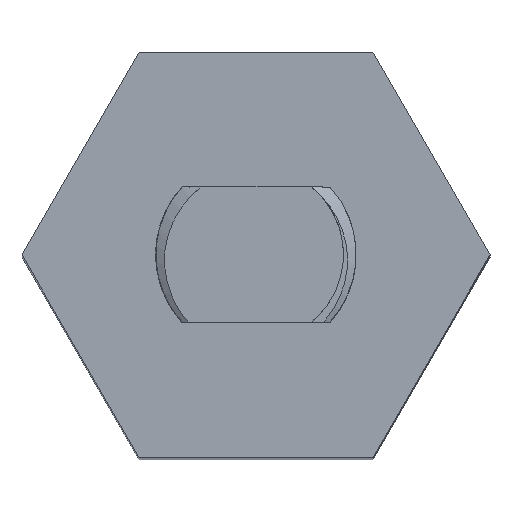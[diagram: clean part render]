
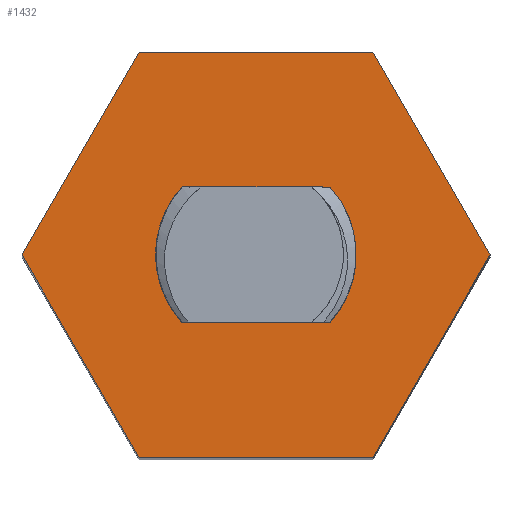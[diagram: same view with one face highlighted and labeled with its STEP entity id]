
A CAD part, top view. The second image highlights one B-rep face of the part: STEP entity #1432.
In plain terms, the highlighted planar face has unit normal (0, 0, 1).
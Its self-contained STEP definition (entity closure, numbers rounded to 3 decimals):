
#28=FACE_BOUND('',#244,.T.);
#83=CIRCLE('',#1466,7.425);
#93=CIRCLE('',#1501,7.425);
#164=FACE_OUTER_BOUND('',#243,.T.);
#243=EDGE_LOOP('',(#1291,#1292,#1293,#1294,#1295,#1296));
#244=EDGE_LOOP('',(#1297,#1298,#1299,#1300));
#259=LINE('',#1876,#349);
#272=LINE('',#2034,#362);
#307=LINE('',#4095,#397);
#311=LINE('',#4103,#401);
#314=LINE('',#4109,#404);
#317=LINE('',#4115,#407);
#320=LINE('',#4121,#410);
#323=LINE('',#4126,#413);
#349=VECTOR('',#1539,10.);
#362=VECTOR('',#1554,10.);
#397=VECTOR('',#1675,10.);
#401=VECTOR('',#1681,10.);
#404=VECTOR('',#1686,10.);
#407=VECTOR('',#1691,10.);
#410=VECTOR('',#1696,10.);
#413=VECTOR('',#1701,10.);
#560=VERTEX_POINT('',#1873);
#561=VERTEX_POINT('',#1875);
#586=VERTEX_POINT('',#2031);
#587=VERTEX_POINT('',#2033);
#665=VERTEX_POINT('',#4093);
#666=VERTEX_POINT('',#4094);
#669=VERTEX_POINT('',#4102);
#671=VERTEX_POINT('',#4108);
#673=VERTEX_POINT('',#4114);
#675=VERTEX_POINT('',#4120);
#704=EDGE_CURVE('',#560,#561,#259,.T.);
#730=EDGE_CURVE('',#586,#587,#272,.T.);
#749=EDGE_CURVE('',#560,#587,#83,.F.);
#867=EDGE_CURVE('',#586,#561,#93,.F.);
#869=EDGE_CURVE('',#665,#666,#307,.T.);
#873=EDGE_CURVE('',#669,#665,#311,.T.);
#876=EDGE_CURVE('',#671,#669,#314,.T.);
#879=EDGE_CURVE('',#673,#671,#317,.T.);
#882=EDGE_CURVE('',#675,#673,#320,.T.);
#885=EDGE_CURVE('',#666,#675,#323,.T.);
#1291=ORIENTED_EDGE('',*,*,#885,.F.);
#1292=ORIENTED_EDGE('',*,*,#869,.F.);
#1293=ORIENTED_EDGE('',*,*,#873,.F.);
#1294=ORIENTED_EDGE('',*,*,#876,.F.);
#1295=ORIENTED_EDGE('',*,*,#879,.F.);
#1296=ORIENTED_EDGE('',*,*,#882,.F.);
#1297=ORIENTED_EDGE('',*,*,#867,.T.);
#1298=ORIENTED_EDGE('',*,*,#704,.F.);
#1299=ORIENTED_EDGE('',*,*,#749,.T.);
#1300=ORIENTED_EDGE('',*,*,#730,.F.);
#1354=PLANE('',#1511);
#1432=ADVANCED_FACE('',(#164,#28),#1354,.F.);
#1466=AXIS2_PLACEMENT_3D('',#2229,#1570,#1571);
#1501=AXIS2_PLACEMENT_3D('',#4089,#1667,#1668);
#1511=AXIS2_PLACEMENT_3D('',#4129,#1705,#1706);
#1539=DIRECTION('',(1.,0.,0.));
#1554=DIRECTION('',(-1.,0.,0.));
#1570=DIRECTION('center_axis',(0.,0.,1.));
#1571=DIRECTION('ref_axis',(-1.,0.,0.));
#1667=DIRECTION('center_axis',(0.,0.,1.));
#1668=DIRECTION('ref_axis',(-1.,0.,0.));
#1675=DIRECTION('',(1.,0.,0.));
#1681=DIRECTION('',(0.5,0.866,0.));
#1686=DIRECTION('',(-0.5,0.866,0.));
#1691=DIRECTION('',(-1.,0.,0.));
#1696=DIRECTION('',(-0.5,-0.866,0.));
#1701=DIRECTION('',(0.5,-0.866,0.));
#1705=DIRECTION('center_axis',(0.,0.,-1.));
#1706=DIRECTION('ref_axis',(1.,0.,0.));
#1873=CARTESIAN_POINT('',(-5.489,131.854,96.5));
#1875=CARTESIAN_POINT('',(5.489,131.854,96.5));
#1876=CARTESIAN_POINT('',(11.,131.854,96.5));
#2031=CARTESIAN_POINT('',(5.489,141.854,96.5));
#2033=CARTESIAN_POINT('',(-5.489,141.854,96.5));
#2034=CARTESIAN_POINT('',(-11.,141.854,96.5));
#2229=CARTESIAN_POINT('Origin',(0.,136.854,96.5));
#4089=CARTESIAN_POINT('Origin',(0.,136.854,96.5));
#4093=CARTESIAN_POINT('',(-8.66,151.854,96.5));
#4094=CARTESIAN_POINT('',(8.66,151.854,96.5));
#4095=CARTESIAN_POINT('',(-8.66,151.854,96.5));
#4102=CARTESIAN_POINT('',(-17.321,136.854,96.5));
#4103=CARTESIAN_POINT('',(-17.321,136.854,96.5));
#4108=CARTESIAN_POINT('',(-8.66,121.854,96.5));
#4109=CARTESIAN_POINT('',(-8.66,121.854,96.5));
#4114=CARTESIAN_POINT('',(8.66,121.854,96.5));
#4115=CARTESIAN_POINT('',(8.66,121.854,96.5));
#4120=CARTESIAN_POINT('',(17.321,136.854,96.5));
#4121=CARTESIAN_POINT('',(17.321,136.854,96.5));
#4126=CARTESIAN_POINT('',(8.66,151.854,96.5));
#4129=CARTESIAN_POINT('Origin',(0.,136.854,96.5));
